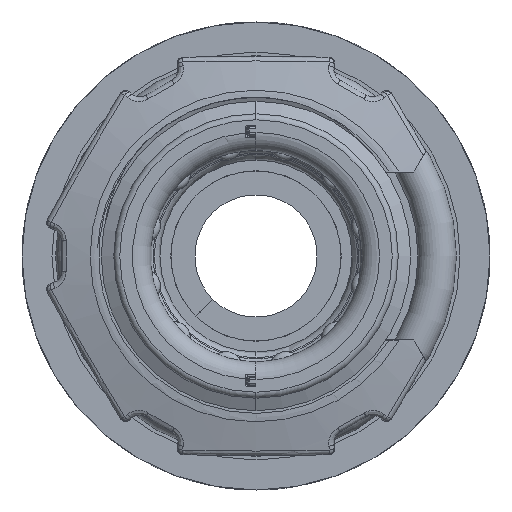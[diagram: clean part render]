
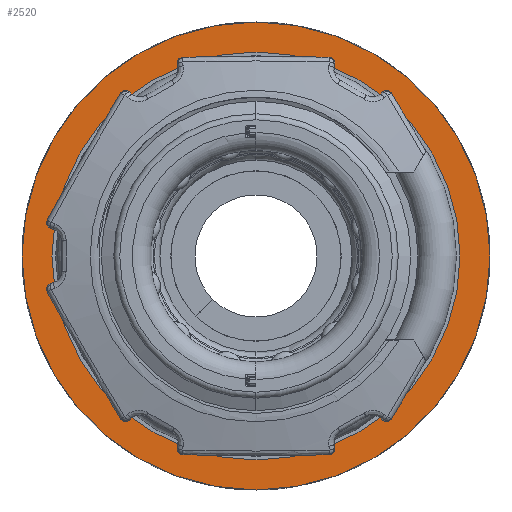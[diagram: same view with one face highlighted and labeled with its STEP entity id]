
A CAD part, left-side view. The second image highlights one B-rep face of the part: STEP entity #2520.
In plain terms, the highlighted planar face has unit normal (-1, 0, 0).
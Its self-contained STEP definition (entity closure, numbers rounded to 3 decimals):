
#120=CARTESIAN_POINT('',(69.074,32.939,
0.));
#130=VERTEX_POINT('',#120);
#2130=CARTESIAN_POINT('',(69.074,71.939,
0.));
#2140=VERTEX_POINT('',#2130);
#2170=CARTESIAN_POINT('',(69.074,52.439,
0.));
#2180=DIRECTION('',(-1.,0.,0.));
#2190=DIRECTION('',(0.,1.,0.));
#2200=AXIS2_PLACEMENT_3D('',#2170,#2180,#2190);
#2210=CIRCLE('',#2200,19.5);
#2220=EDGE_CURVE('',#2140,#130,#2210,.T.);
#2270=CARTESIAN_POINT('',(69.074,40.514,0.));
#2280=DIRECTION('',(-1.,0.,0.));
#2290=DIRECTION('',(0.,1.,0.));
#2300=AXIS2_PLACEMENT_3D('',#2270,#2280,#2290);
#2310=PLANE('',#2300);
#2320=EDGE_CURVE('',#130,#2140,#2210,.T.);
#2330=ORIENTED_EDGE('',*,*,#2320,.T.);
#2340=ORIENTED_EDGE('',*,*,#2220,.T.);
#2350=EDGE_LOOP('',(#2340,#2330));
#2360=FACE_OUTER_BOUND('',#2350,.T.);
#2370=CARTESIAN_POINT('',(69.074,52.439,0.));
#2380=DIRECTION('',(1.,0.,0.));
#2390=DIRECTION('',(0.,1.,0.));
#2400=AXIS2_PLACEMENT_3D('',#2370,#2380,#2390);
#2410=CIRCLE('',#2400,17.);
#2420=CARTESIAN_POINT('',(69.074,69.439,0.));
#2430=VERTEX_POINT('',#2420);
#2440=CARTESIAN_POINT('',(69.074,35.439,
0.));
#2450=VERTEX_POINT('',#2440);
#2460=EDGE_CURVE('',#2430,#2450,#2410,.T.);
#2470=ORIENTED_EDGE('',*,*,#2460,.T.);
#2480=EDGE_CURVE('',#2450,#2430,#2410,.T.);
#2490=ORIENTED_EDGE('',*,*,#2480,.T.);
#2500=EDGE_LOOP('',(#2490,#2470));
#2510=FACE_BOUND('',#2500,.T.);
#2520=ADVANCED_FACE('',(#2360,#2510),#2310,.T.);
